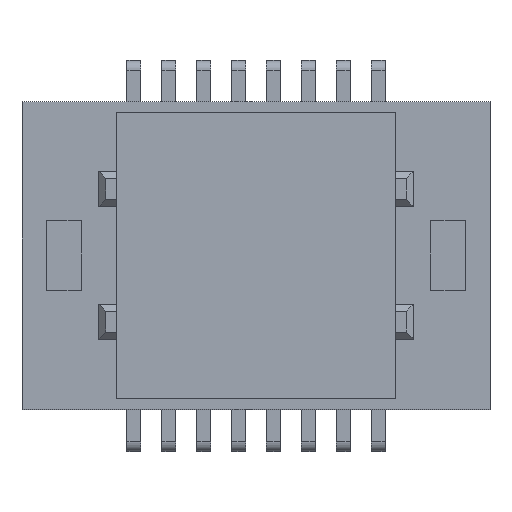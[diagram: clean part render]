
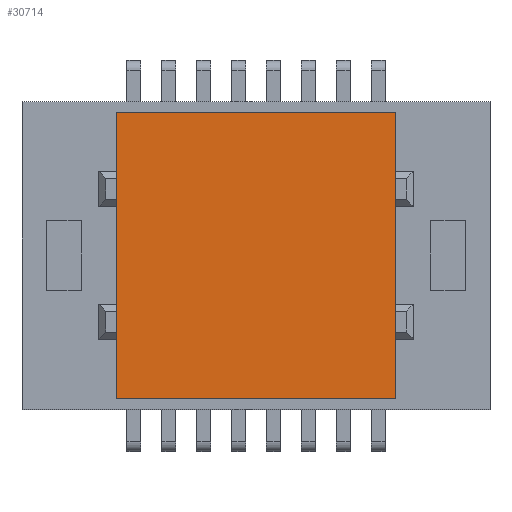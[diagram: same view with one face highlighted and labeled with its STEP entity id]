
A CAD part, top view. The second image highlights one B-rep face of the part: STEP entity #30714.
In plain terms, the highlighted planar face has unit normal (0, 0, 1).
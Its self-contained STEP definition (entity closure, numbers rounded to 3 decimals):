
#30662=CARTESIAN_POINT('Vertex',(-2.,2.05,6.35)) ;
#30665=CARTESIAN_POINT('Line Origine',(0.,2.05,6.35)) ;
#30669=CARTESIAN_POINT('Vertex',(2.,2.05,6.35)) ;
#30684=CARTESIAN_POINT('Axis2P3D Location',(0.,-2.05,6.35)) ;
#30689=CARTESIAN_POINT('Line Origine',(-2.,0.,6.35)) ;
#30693=CARTESIAN_POINT('Vertex',(-2.,-2.05,6.35)) ;
#30696=CARTESIAN_POINT('Line Origine',(0.,-2.05,6.35)) ;
#30700=CARTESIAN_POINT('Vertex',(2.,-2.05,6.35)) ;
#30703=CARTESIAN_POINT('Line Origine',(2.,0.,6.35)) ;
#30666=DIRECTION('Vector Direction',(1.,0.,0.)) ;
#30685=DIRECTION('Axis2P3D Direction',(0.,0.,-1.)) ;
#30686=DIRECTION('Axis2P3D XDirection',(0.,1.,0.)) ;
#30690=DIRECTION('Vector Direction',(0.,1.,0.)) ;
#30697=DIRECTION('Vector Direction',(1.,0.,0.)) ;
#30704=DIRECTION('Vector Direction',(0.,1.,0.)) ;
#30687=AXIS2_PLACEMENT_3D('Plane Axis2P3D',#30684,#30685,#30686) ;
#30709=ORIENTED_EDGE('',*,*,#30671,.F.) ;
#30710=ORIENTED_EDGE('',*,*,#30695,.T.) ;
#30711=ORIENTED_EDGE('',*,*,#30702,.T.) ;
#30712=ORIENTED_EDGE('',*,*,#30707,.F.) ;
#30667=VECTOR('Line Direction',#30666,1.) ;
#30691=VECTOR('Line Direction',#30690,1.) ;
#30698=VECTOR('Line Direction',#30697,1.) ;
#30705=VECTOR('Line Direction',#30704,1.) ;
#30714=ADVANCED_FACE('\X2\76D65B50\X0\',(#30713),#30688,.F.) ;
#30671=EDGE_CURVE('',#30663,#30670,#30668,.T.) ;
#30695=EDGE_CURVE('',#30663,#30694,#30692,.F.) ;
#30702=EDGE_CURVE('',#30694,#30701,#30699,.T.) ;
#30707=EDGE_CURVE('',#30670,#30701,#30706,.F.) ;
#30708=EDGE_LOOP('',(#30709,#30710,#30711,#30712)) ;
#30713=FACE_OUTER_BOUND('',#30708,.T.) ;
#30668=LINE('Line',#30665,#30667) ;
#30692=LINE('Line',#30689,#30691) ;
#30699=LINE('Line',#30696,#30698) ;
#30706=LINE('Line',#30703,#30705) ;
#30688=PLANE('Plane',#30687) ;
#30663=VERTEX_POINT('',#30662) ;
#30670=VERTEX_POINT('',#30669) ;
#30694=VERTEX_POINT('',#30693) ;
#30701=VERTEX_POINT('',#30700) ;
